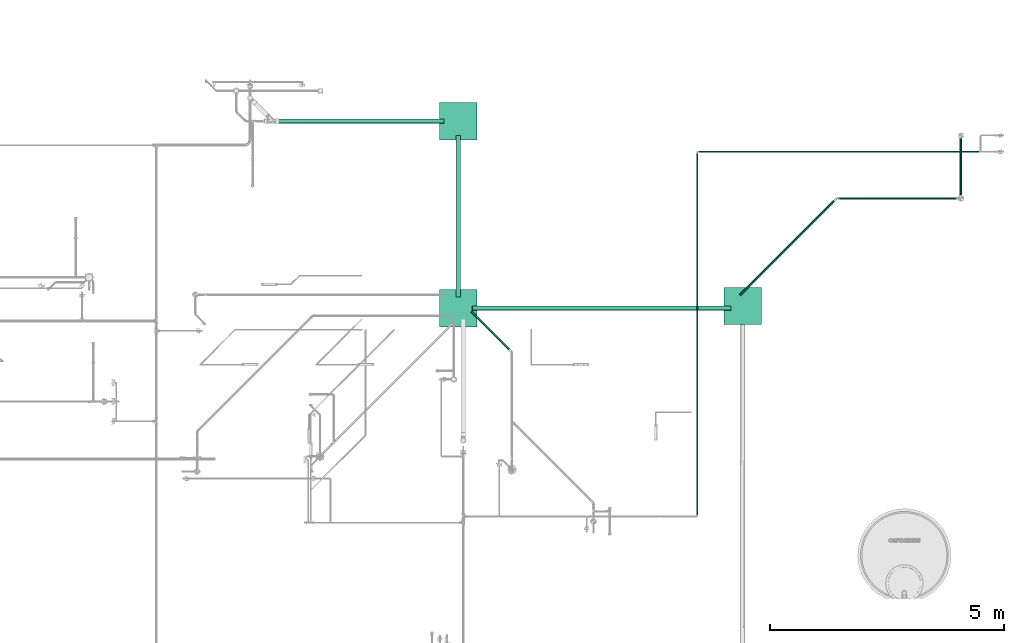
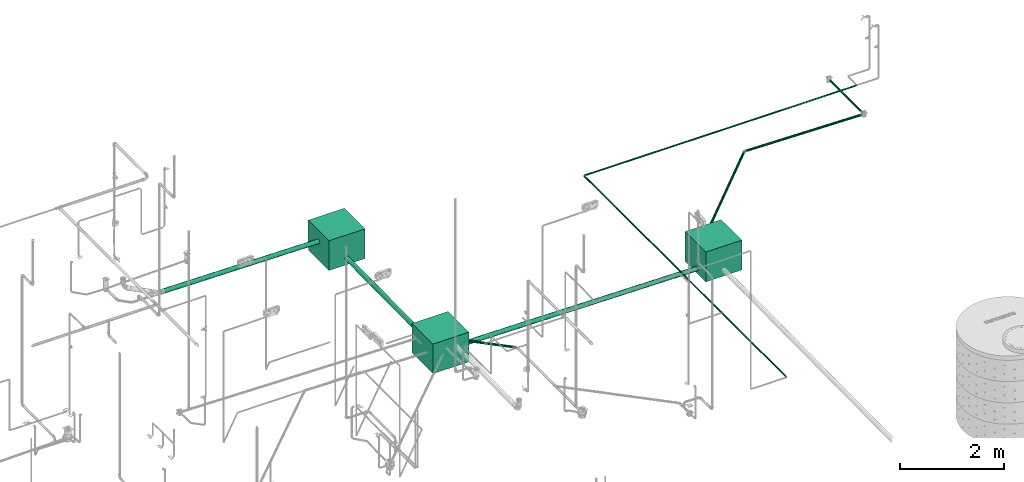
# One storey, part 24 of 589: 9 flow segments, 3 flow terminals.
"""IFC2X3 building model written with IfcOpenShell, lengths in millimetres."""

import ifcopenshell
import ifcopenshell.guid

model = None  # the IFC model being written
_history = None  # IfcOwnerHistory: only IFC2X3 demands one
_inside = {}  # id of a spatial element -> (the spatial element, [elements in it])
_under = {}  # id of a project, library or spatial element -> (it, [spatial elements below it])
_declared = {}  # id of a project -> (the project, [libraries it declares])
_typed = {}  # id of a type object -> (the type object, [elements of that type])
_made_of = {}  # id of a material, layer set ... -> (it, [elements and type objects made of it])


def new_model(schema):
    """Start an empty IFC model of exactly this schema.

    Asked for "IFC4X3", IfcOpenShell would pick the latest addendum, in which some entities
    have other attributes; the version numbers below select the first issue.
    IFC2X3 requires an IfcOwnerHistory on every rooted entity: one is made here for all.
    """
    global model, _history
    if schema == "IFC4X3":
        model = ifcopenshell.file(schema_version=(4, 3, 0, 0))
    else:
        model = ifcopenshell.file(schema=schema)
    _inside.clear()
    _under.clear()
    _declared.clear()
    _typed.clear()
    _made_of.clear()
    _history = None
    if model.schema == "IFC2X3":
        org = make("IfcOrganization", Name="unknown")
        user = make(
            "IfcPersonAndOrganization",
            ThePerson=make("IfcPerson", FamilyName="unknown"),
            TheOrganization=org,
        )
        app = make(
            "IfcApplication",
            ApplicationDeveloper=org,
            Version="unknown",
            ApplicationFullName="unknown",
            ApplicationIdentifier="unknown",
        )
        _history = make(
            "IfcOwnerHistory",
            OwningUser=user,
            OwningApplication=app,
            ChangeAction="ADDED",
            CreationDate=0,
        )
    return model


def make(cls, **values):
    """One entity of the class cls with the attributes given. An attribute that is None is left unset."""
    return model.create_entity(
        cls, **{name: value for name, value in values.items() if value is not None}
    )


def entity(cls, *values):
    """Any entity or typed value of the class cls, its attributes in the order of the schema. None: left unset."""
    e = model.create_entity(cls)
    for i, value in enumerate(values):
        if value is not None:
            e[i] = value
    return e


def rooted(cls, **values):
    """An entity with a GlobalId (a new one), such as an element, a storey or a relation."""
    return make(cls, GlobalId=ifcopenshell.guid.new(), OwnerHistory=_history, **values)


def si_unit(unit_type, name, prefix=None):
    """IfcSIUnit, for example si_unit("LENGTHUNIT", "METRE", prefix="MILLI")."""
    return make("IfcSIUnit", UnitType=unit_type, Prefix=prefix, Name=name)


def converted_unit(unit_type, name, factor, base, dimensions=None, offset=None):
    """IfcConversionBasedUnit, such as the inch: factor (a typed value) times the base unit."""
    return make(
        "IfcConversionBasedUnit"
        if offset is None
        else "IfcConversionBasedUnitWithOffset",
        ConversionOffset=offset,
        Dimensions=None
        if dimensions is None
        else entity("IfcDimensionalExponents", *dimensions),
        UnitType=unit_type,
        Name=name,
        ConversionFactor=make(
            "IfcMeasureWithUnit", ValueComponent=factor, UnitComponent=base
        ),
    )


def derived_unit(unit_type, elements):
    """IfcDerivedUnit: a product of units, each with its exponent."""
    return make(
        "IfcDerivedUnit",
        Elements=[
            make("IfcDerivedUnitElement", Unit=unit, Exponent=power)
            for unit, power in elements
        ],
        UnitType=unit_type,
    )


def assignment(units):
    """IfcUnitAssignment: the units of a project."""
    return None if units is None else make("IfcUnitAssignment", Units=units)


def point(xyz):
    """IfcCartesianPoint."""
    return None if xyz is None else make("IfcCartesianPoint", Coordinates=xyz)


def direction(xyz):
    """IfcDirection."""
    return None if xyz is None else make("IfcDirection", DirectionRatios=xyz)


def frame(location, z_axis=None, x_axis=None):
    """IfcAxis2Placement3D, a coordinate frame: its origin and axes. An axis left out is left unset."""
    return make(
        "IfcAxis2Placement3D",
        Location=point(location),
        Axis=direction(z_axis),
        RefDirection=direction(x_axis),
    )


def frame_2d(location, x_axis=None):
    """IfcAxis2Placement2D, a coordinate frame in the plane: its origin and x axis."""
    return make(
        "IfcAxis2Placement2D", Location=point(location), RefDirection=direction(x_axis)
    )


def origin():
    """The frame at (0, 0, 0) with its axes left unset."""
    return frame((0.0, 0.0, 0.0))


def origin_2d_with_axis():
    """The frame at (0, 0) in the plane with the x axis (1, 0) written out."""
    return frame_2d((0.0, 0.0), x_axis=(1.0, 0.0))


def place(relative_to, where):
    """IfcLocalPlacement: puts the frame where relative to a parent placement (None: the world)."""
    return make(
        "IfcLocalPlacement", PlacementRelTo=relative_to, RelativePlacement=where
    )


def context(
    kind, dimensions, precision=None, world=None, true_north=None, identifier=None
):
    """IfcGeometricRepresentationContext, for example the 3D "Model" context."""
    return make(
        "IfcGeometricRepresentationContext",
        ContextIdentifier=identifier,
        ContextType=kind,
        CoordinateSpaceDimension=dimensions,
        Precision=precision,
        WorldCoordinateSystem=world,
        TrueNorth=true_north,
    )


def subcontext(parent, identifier, kind, view, scale=None):
    """IfcGeometricRepresentationSubContext, for example "Body" below "Model"."""
    return make(
        "IfcGeometricRepresentationSubContext",
        ContextIdentifier=identifier,
        ContextType=kind,
        ParentContext=parent,
        TargetScale=scale,
        TargetView=view,
    )


def project(units=None, contexts=None):
    """IfcProject with its units and contexts."""
    return rooted(
        "IfcProject",
        Name="project",
        RepresentationContexts=contexts,
        UnitsInContext=assignment(units),
    )


def spatial(cls, under=None, at=None, **own):
    """A site, building, storey or space (cls), placed at a placement, below another one or the project."""
    s = rooted(cls, ObjectPlacement=at, **own)
    if under is not None:
        _under.setdefault(under.id(), (under, []))[1].append(s)
    return s


def polyline(points):
    """IfcPolyline through the points."""
    return make("IfcPolyline", Points=[point(p) for p in points])


def profile(cls, at=None, kind="AREA", **sizes):
    """A parametric profile (cls). Its sizes go by their IFC names, for example OverallWidth=200.0."""
    return make(cls, ProfileType=kind, Position=at, **sizes)


def rectangle(**sizes):
    """IfcRectangleProfileDef."""
    return profile("IfcRectangleProfileDef", **sizes)


def circle(**sizes):
    """IfcCircleProfileDef."""
    return profile("IfcCircleProfileDef", **sizes)


def outline(outer, holes=None, kind="AREA"):
    """IfcArbitraryClosedProfileDef: a profile drawn as a closed curve; with holes, ...WithVoids."""
    if holes is None:
        return make("IfcArbitraryClosedProfileDef", ProfileType=kind, OuterCurve=outer)
    return make(
        "IfcArbitraryProfileDefWithVoids",
        ProfileType=kind,
        OuterCurve=outer,
        InnerCurves=holes,
    )


def extrude(swept, where, along, depth):
    """IfcExtrudedAreaSolid: the profile swept, set in the frame where, extruded along a direction by depth."""
    return make(
        "IfcExtrudedAreaSolid",
        SweptArea=swept,
        Position=where,
        ExtrudedDirection=direction(along),
        Depth=depth,
    )


def shape(context_of_items, identifier, shape_type, items):
    """IfcShapeRepresentation: the items that make up one representation, for example the "Body"."""
    return make(
        "IfcShapeRepresentation",
        ContextOfItems=context_of_items,
        RepresentationIdentifier=identifier,
        RepresentationType=shape_type,
        Items=items,
    )


def source(mapping_origin, context_of_items, identifier, shape_type, items):
    """IfcRepresentationMap: a shape defined once, which mapped items show again and again."""
    return make(
        "IfcRepresentationMap",
        MappingOrigin=mapping_origin,
        MappedRepresentation=shape(context_of_items, identifier, shape_type, items),
    )


def transform(
    local_origin,
    x_axis=None,
    y_axis=None,
    z_axis=None,
    scale=None,
    scale2=None,
    scale3=None,
    uniform=True,
):
    """IfcCartesianTransformationOperator3D, or its non-uniform kind. x_axis, y_axis, z_axis: its Axis1, 2, 3."""
    if uniform:
        return make(
            "IfcCartesianTransformationOperator3D",
            Axis1=direction(x_axis),
            Axis2=direction(y_axis),
            LocalOrigin=point(local_origin),
            Scale=scale,
            Axis3=direction(z_axis),
        )
    return make(
        "IfcCartesianTransformationOperator3DnonUniform",
        Axis1=direction(x_axis),
        Axis2=direction(y_axis),
        LocalOrigin=point(local_origin),
        Scale=scale,
        Axis3=direction(z_axis),
        Scale2=scale2,
        Scale3=scale3,
    )


def mapped(mapping_source, mapping_target):
    """IfcMappedItem: shows the shape of a source again, moved by a transform."""
    return make(
        "IfcMappedItem", MappingSource=mapping_source, MappingTarget=mapping_target
    )


def material(Name=None, Category=None):
    """IfcMaterial."""
    return make("IfcMaterial", Name=Name, Category=Category)


def material_list(materials):
    """IfcMaterialList."""
    return make("IfcMaterialList", Materials=materials)


def made_of(thing, what):
    """Note that an element or type object is made of a material, layer set ...; save() writes the relation."""
    if what is not None:
        _made_of.setdefault(what.id(), (what, []))[1].append(thing)
    return thing


def type_object(cls, material=None, **own):
    """A type object (cls), such as IfcWallType, which elements share."""
    return made_of(rooted(cls, **own), material)


def type_shapes(of_type, sources):
    """Give a type object the sources (RepresentationMaps) that its elements show as mapped items."""
    of_type.RepresentationMaps = sources


def element(
    cls,
    number,
    at=None,
    inside=None,
    cuts=None,
    type_object=None,
    material=None,
    context=None,
    identifier="Body",
    shape_type=None,
    held_by="IfcProductDefinitionShape",
    body=None,
    shapes=None,
    **own,
):
    """One element of the class cls, such as IfcWall. Its Tag is "e" and its number.

    at: its placement. inside: the storey or other place that contains it. cuts: it is an
    opening in that element (IfcRelVoidsElement). A single representation is given by context,
    identifier, shape_type and body (its items); several are given by shapes. held_by: the class
    of the entity that holds the representations. save() writes the other relations.
    """
    e = rooted(cls, Tag="e%d" % number, ObjectPlacement=at, **own)
    if body is not None:
        shapes = [shape(context, identifier, shape_type, body)]
    if shapes is not None:
        e.Representation = make(held_by, Representations=shapes)
    if inside is not None:
        _inside.setdefault(inside.id(), (inside, []))[1].append(e)
    if cuts is not None:
        rooted(
            "IfcRelVoidsElement", RelatingBuildingElement=cuts, RelatedOpeningElement=e
        )
    if type_object is not None:
        _typed.setdefault(type_object.id(), (type_object, []))[1].append(e)
    return made_of(e, material)


def aggregate(whole, parts):
    """IfcRelAggregates: a whole, such as a stair, and the parts it consists of."""
    return rooted("IfcRelAggregates", RelatingObject=whole, RelatedObjects=parts)


def save(model, path):
    """Write the relations noted so far, then the file.

    IfcRelAggregates (storeys below a building ...), IfcRelContainedInSpatialStructure (elements
    in a storey), IfcRelDefinesByType, IfcRelAssociatesMaterial and IfcRelDeclares: one each for
    every whole, place, type object, material and project.
    """
    for whole, parts in _under.values():
        aggregate(whole, parts)
    for where, things in _inside.values():
        rooted(
            "IfcRelContainedInSpatialStructure",
            RelatedElements=things,
            RelatingStructure=where,
        )
    for kind, things in _typed.values():
        rooted("IfcRelDefinesByType", RelatedObjects=things, RelatingType=kind)
    for what, things in _made_of.values():
        rooted("IfcRelAssociatesMaterial", RelatedObjects=things, RelatingMaterial=what)
    for by, libraries in _declared.values():
        rooted("IfcRelDeclares", RelatingContext=by, RelatedDefinitions=libraries)
    model.write(path)


model = new_model("IFC2X3")

# Units and contexts
model_context = context("Model", 3, precision=0.01, world=origin(), true_north=direction((6.123031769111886e-17, 1.0)))
body_context = subcontext(model_context, "Body", "Model", "MODEL_VIEW")
ifc_project = project(units=[si_unit("LENGTHUNIT", "METRE", prefix="MILLI"), si_unit("AREAUNIT", "SQUARE_METRE"), si_unit("VOLUMEUNIT", "CUBIC_METRE"), converted_unit("PLANEANGLEUNIT", "DEGREE", entity("IfcRatioMeasure", 0.017453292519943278), si_unit("PLANEANGLEUNIT", "RADIAN"), dimensions=[0, 0, 0, 0, 0, 0, 0]), si_unit("MASSUNIT", "GRAM", prefix="KILO"), derived_unit("MASSDENSITYUNIT", [(si_unit("MASSUNIT", "GRAM", prefix="KILO"), 1), (si_unit("LENGTHUNIT", "METRE"), -3)]), derived_unit("IONCONCENTRATIONUNIT", [(si_unit("MASSUNIT", "GRAM", prefix="KILO"), 1), (si_unit("LENGTHUNIT", "METRE"), -3)]), derived_unit("MOMENTOFINERTIAUNIT", [(si_unit("LENGTHUNIT", "METRE"), 4)]), si_unit("TIMEUNIT", "SECOND"), si_unit("FREQUENCYUNIT", "HERTZ"), si_unit("THERMODYNAMICTEMPERATUREUNIT", "DEGREE_CELSIUS"), derived_unit("THERMALTRANSMITTANCEUNIT", [(si_unit("MASSUNIT", "GRAM", prefix="KILO"), 1), (si_unit("THERMODYNAMICTEMPERATUREUNIT", "KELVIN"), -1), (si_unit("TIMEUNIT", "SECOND"), -3)]), derived_unit("THERMALCONDUCTANCEUNIT", [(si_unit("MASSUNIT", "GRAM", prefix="KILO"), 1), (si_unit("THERMODYNAMICTEMPERATUREUNIT", "KELVIN"), -1), (si_unit("TIMEUNIT", "SECOND"), -3), (si_unit("LENGTHUNIT", "METRE"), 1)]), derived_unit("VOLUMETRICFLOWRATEUNIT", [(si_unit("LENGTHUNIT", "METRE"), 3), (si_unit("TIMEUNIT", "SECOND"), -1)]), derived_unit("MASSFLOWRATEUNIT", [(si_unit("MASSUNIT", "GRAM", prefix="KILO"), 1), (si_unit("TIMEUNIT", "SECOND"), -1)]), derived_unit("ROTATIONALFREQUENCYUNIT", [(si_unit("TIMEUNIT", "SECOND"), -1)]), si_unit("ELECTRICCURRENTUNIT", "AMPERE"), si_unit("ELECTRICVOLTAGEUNIT", "VOLT"), si_unit("POWERUNIT", "WATT"), si_unit("FORCEUNIT", "NEWTON", prefix="KILO"), si_unit("ILLUMINANCEUNIT", "LUX"), si_unit("LUMINOUSFLUXUNIT", "LUMEN"), si_unit("LUMINOUSINTENSITYUNIT", "CANDELA"), derived_unit("USERDEFINED", [(si_unit("MASSUNIT", "GRAM", prefix="KILO"), -1), (si_unit("LENGTHUNIT", "METRE"), -2), (si_unit("TIMEUNIT", "SECOND"), 3), (si_unit("LUMINOUSFLUXUNIT", "LUMEN"), 1)]), derived_unit("USERDEFINED", [(si_unit("MASSUNIT", "GRAM", prefix="KILO"), 1), (si_unit("TIMEUNIT", "SECOND"), -3), (si_unit("LENGTHUNIT", "METRE"), 3), (si_unit("ELECTRICCURRENTUNIT", "AMPERE"), -2)]), derived_unit("SOUNDPOWERUNIT", [(si_unit("MASSUNIT", "GRAM", prefix="KILO"), 1), (si_unit("TIMEUNIT", "SECOND"), -3), (si_unit("LENGTHUNIT", "METRE"), 2)]), derived_unit("SOUNDPRESSUREUNIT", [(si_unit("MASSUNIT", "GRAM", prefix="KILO"), 1), (si_unit("LENGTHUNIT", "METRE"), -1), (si_unit("TIMEUNIT", "SECOND"), -2)]), derived_unit("LINEARVELOCITYUNIT", [(si_unit("LENGTHUNIT", "METRE"), 1), (si_unit("TIMEUNIT", "SECOND"), -1)]), si_unit("PRESSUREUNIT", "PASCAL"), derived_unit("USERDEFINED", [(si_unit("MASSUNIT", "GRAM", prefix="KILO"), 1), (si_unit("LENGTHUNIT", "METRE"), -2), (si_unit("TIMEUNIT", "SECOND"), -2)]), derived_unit("LINEARFORCEUNIT", [(si_unit("MASSUNIT", "GRAM", prefix="KILO"), 1), (si_unit("TIMEUNIT", "SECOND"), -2)]), derived_unit("PLANARFORCEUNIT", [(si_unit("MASSUNIT", "GRAM", prefix="KILO"), 1), (si_unit("LENGTHUNIT", "METRE"), -1), (si_unit("TIMEUNIT", "SECOND"), -2)]), derived_unit("SPECIFICHEATCAPACITYUNIT", [(si_unit("THERMODYNAMICTEMPERATUREUNIT", "KELVIN"), -1), (si_unit("LENGTHUNIT", "METRE"), 2), (si_unit("TIMEUNIT", "SECOND"), -2)]), derived_unit("HEATINGVALUEUNIT", [(si_unit("LENGTHUNIT", "METRE"), 2), (si_unit("TIMEUNIT", "SECOND"), -2)]), derived_unit("VAPORPERMEABILITYUNIT", [(si_unit("LENGTHUNIT", "METRE"), -1), (si_unit("TIMEUNIT", "SECOND"), 1)]), derived_unit("DYNAMICVISCOSITYUNIT", [(si_unit("MASSUNIT", "GRAM", prefix="KILO"), 1), (si_unit("TIMEUNIT", "SECOND"), -1), (si_unit("LENGTHUNIT", "METRE"), -1)]), derived_unit("THERMALEXPANSIONCOEFFICIENTUNIT", [(si_unit("THERMODYNAMICTEMPERATUREUNIT", "KELVIN"), -1)]), derived_unit("MODULUSOFELASTICITYUNIT", [(si_unit("MASSUNIT", "GRAM", prefix="KILO"), 1), (si_unit("LENGTHUNIT", "METRE"), -1), (si_unit("TIMEUNIT", "SECOND"), -2)]), derived_unit("ISOTHERMALMOISTURECAPACITYUNIT", [(si_unit("LENGTHUNIT", "METRE"), 3), (si_unit("MASSUNIT", "GRAM", prefix="KILO"), -1)]), derived_unit("MOISTUREDIFFUSIVITYUNIT", [(si_unit("TIMEUNIT", "SECOND"), -1), (si_unit("LENGTHUNIT", "METRE"), 2)])], contexts=[model_context])

# Site, building, storey
site_placement = place(None, origin())
site = spatial("IfcSite", under=ifc_project, at=site_placement, Name="Default", CompositionType="ELEMENT")
building_placement = place(site_placement, origin())
building = spatial("IfcBuilding", under=site, at=building_placement, CompositionType="ELEMENT")
storey_placement = place(building_placement, frame((0.0, 0.0, 100.0)))
storey = spatial("IfcBuildingStorey", under=building, at=storey_placement, Name="TÉRREO", CompositionType="ELEMENT", Elevation=100.0)

# Flow segments
pipe_segment_type_1 = type_object("IfcPipeSegmentType", Name="Tipos de tubos:PVC Esgoto Série Normal", PredefinedType="NOTDEFINED")
flow_segment_1_placement = place(storey_placement, origin())
element("IfcFlowSegment", 1, at=flow_segment_1_placement, inside=storey, type_object=pipe_segment_type_1, Name="Tipos de tubos:PVC Esgoto Série Normal", ObjectType="Tipos de tubos:PVC Esgoto Série Normal", context=body_context, shape_type="SweptSolid", body=[
    extrude(circle(Radius=25.0, at=frame_2d((1.5312502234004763e-12, -6.445791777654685e-14), x_axis=(1.0, 0.0))), frame((10784.507089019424, 2625.360724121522, -317.16772473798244), z_axis=(0.7070370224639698, -0.7068937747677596, 0.019996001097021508), x_axis=(0.7070351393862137, 0.7071784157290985, 0.0)), (0.0, 0.0, 1.0), 1217.3006284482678),
])
flow_segment_2_placement = place(storey_placement, origin())
element("IfcFlowSegment", 2, at=flow_segment_2_placement, inside=storey, type_object=pipe_segment_type_1, Name="Tipos de tubos:PVC Esgoto Série Normal", ObjectType="Tipos de tubos:PVC Esgoto Série Normal", context=body_context, shape_type="SweptSolid", body=[
    extrude(circle(Radius=25.0, at=frame_2d((0.0, -1.0572760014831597e-14), x_axis=(1.0, 0.0))), frame((18623.560060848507, 5044.222132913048, -118.02614831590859), z_axis=(0.9998000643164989, 0.0, -0.019995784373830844), x_axis=(0.0, 1.0, 0.0)), (0.0, 0.0, 1.0), 2581.703767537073),
])
flow_segment_3_placement = place(storey_placement, origin())
element("IfcFlowSegment", 3, at=flow_segment_3_placement, inside=storey, type_object=pipe_segment_type_1, Name="Tipos de tubos:PVC Esgoto Série Normal", ObjectType="Tipos de tubos:PVC Esgoto Série Normal", context=body_context, shape_type="SweptSolid", body=[
    extrude(circle(Radius=20.0, at=frame_2d((0.0, -1.6919798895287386e-14), x_axis=(1.0, 0.0))), frame((21263.74765367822, 5097.122132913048, -169.64934016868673), z_axis=(0.0, 1.0, 0.0), x_axis=(-1.0, 0.0, 0.0)), (0.0, 0.0, 1.0), 1242.857730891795),
])
flow_segment_4_placement = place(storey_placement, origin())
element("IfcFlowSegment", 4, at=flow_segment_4_placement, inside=storey, type_object=pipe_segment_type_1, Name="Tipos de tubos:PVC Esgoto Série Normal", ObjectType="Tipos de tubos:PVC Esgoto Série Normal", context=body_context, shape_type="SweptSolid", body=[
    extrude(circle(Radius=50.0, at=frame_2d((0.0, -5.0756858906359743e-14), x_axis=(1.0, 0.0))), frame((6630.023855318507, 6698.647206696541, -221.57385244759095), z_axis=(0.9999500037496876, 0.0, -0.009999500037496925), x_axis=(0.0, -1.0, 0.0)), (0.0, 0.0, 1.0), 3578.662834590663),
])
flow_segment_5_placement = place(storey_placement, origin())
element("IfcFlowSegment", 5, at=flow_segment_5_placement, inside=storey, type_object=pipe_segment_type_1, Name="Tipos de tubos:PVC Esgoto Série Normal", ObjectType="Tipos de tubos:PVC Esgoto Série Normal", context=body_context, shape_type="SweptSolid", body=[
    extrude(circle(Radius=50.0, at=frame_2d((0.0, -7.309777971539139e-14), x_axis=(1.0, 0.0))), frame((10508.531662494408, 2939.2721329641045, -584.5999999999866), z_axis=(0.0, 0.9999498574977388, 0.010014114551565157), x_axis=(-1.0, 0.0, 0.0)), (0.0, 0.0, 1.0), 3455.123248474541),
])
flow_segment_6_placement = place(storey_placement, origin())
element("IfcFlowSegment", 6, at=flow_segment_6_placement, inside=storey, type_object=pipe_segment_type_1, Name="Tipos de tubos:PVC Esgoto Série Normal", ObjectType="Tipos de tubos:PVC Esgoto Série Normal", context=body_context, shape_type="SweptSolid", body=[
    extrude(circle(Radius=50.0, at=frame_2d((0.0, -6.767581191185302e-14), x_axis=(1.0, 0.0))), frame((10808.53166249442, 2697.318129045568, -550.0), z_axis=(0.9999500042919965, 3.293252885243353e-07, -0.009999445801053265), x_axis=(3.2934175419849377e-07, -1.0, 0.0)), (0.0, 0.0, 1.0), 5540.0),
])
flow_segment_7_placement = place(storey_placement, origin())
element("IfcFlowSegment", 7, at=flow_segment_7_placement, inside=storey, type_object=pipe_segment_type_1, Name="Tipos de tubos:PVC Esgoto Série Normal", ObjectType="Tipos de tubos:PVC Esgoto Série Normal", context=body_context, shape_type="SweptSolid", body=[
    extrude(circle(Radius=25.0, at=frame_2d((-2.2013379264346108e-32, -2.5378429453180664e-14), x_axis=(1.0, 0.0))), frame((16536.371350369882, 2973.1108822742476, -146.99732336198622), z_axis=(0.7070891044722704, 0.7070537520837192, 0.009999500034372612), x_axis=(-0.7070891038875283, 0.7071244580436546, 0.0)), (0.0, 0.0, 1.0), 2913.2352306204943),
])
pipe_segment_type_2 = type_object("IfcPipeSegmentType", Name="Tipos de tubos:PVC Marrom Soldável", PredefinedType="NOTDEFINED")
flow_segment_8_placement = place(storey_placement, origin())
element("IfcFlowSegment", 8, at=flow_segment_8_placement, inside=storey, type_object=pipe_segment_type_2, Name="Tipos de tubos:PVC Marrom Soldável", ObjectType="Tipos de tubos:PVC Marrom Soldável", context=body_context, shape_type="SweptSolid", body=[
    extrude(circle(Radius=12.5, at=origin_2d_with_axis()), frame((15622.720932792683, -1745.3814166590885, -250.0), z_axis=(0.0, 1.0, 0.0), x_axis=(1.0, 0.0, 0.0)), (0.0, 0.0, 1.0), 7774.203549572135),
])
flow_segment_9_placement = place(storey_placement, origin())
element("IfcFlowSegment", 9, at=flow_segment_9_placement, inside=storey, type_object=pipe_segment_type_2, Name="Tipos de tubos:PVC Marrom Soldável", ObjectType="Tipos de tubos:PVC Marrom Soldável", context=body_context, shape_type="SweptSolid", body=[
    extrude(circle(Radius=12.5, at=origin_2d_with_axis()), frame((15638.120932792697, 6044.222132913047, -250.0), z_axis=(1.0, 0.0, 0.0), x_axis=(0.0, -1.0, 0.0)), (0.0, 0.0, 1.0), 6031.419056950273),
])

# Flow terminals
ifc_material_1 = material(Name="<Unnamed>")
ifc_material_2 = material(Name="Tijolo, Comum")
ifc_material_3 = material(Name=".CONCRETO")
ifc_material_list = material_list([ifc_material_1, ifc_material_2, ifc_material_3])
distribution_element_type = type_object("IfcDistributionElementType", Name="Caixa em Alvenaria_Rodrigo MEP:Caixa de Inspeçao de Esgoto 60x60cm - CI", material=ifc_material_list)
shared_shape = source(origin(), body_context, "Body", "SweptSolid", [
    extrude(circle(Radius=50.0, at=frame_2d((1.6919798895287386e-14, -2.0303758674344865e-13), x_axis=(1.0, 0.0))), frame((297.0, -150.0, -550.0), z_axis=(1.0, 0.0, 0.0), x_axis=(0.0, -1.0, 0.0)), (0.0, 0.0, 1.0), 2.9999999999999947),
    extrude(circle(Radius=50.0, at=frame_2d((0.0, -2.0303758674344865e-13), x_axis=(1.0, 0.0))), frame((297.0, 150.0, -550.0), z_axis=(1.0, 0.0, 0.0), x_axis=(0.0, -1.0, 0.0)), (0.0, 0.0, 1.0), 2.9999999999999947),
    extrude(circle(Radius=50.0, at=frame_2d((0.0, -6.767919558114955e-14), x_axis=(1.0, 0.0))), frame((-300.0, 136.27378055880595, -550.0), z_axis=(1.0, 0.0, 0.0), x_axis=(0.0, 1.0, 0.0)), (0.0, 0.0, 1.0), 2.9999999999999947),
    extrude(circle(Radius=50.0, at=frame_2d((-1.6919798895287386e-14, -6.767919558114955e-14), x_axis=(1.0, 0.0))), frame((-300.0, -150.0, -550.0), z_axis=(1.0, 0.0, 0.0), x_axis=(0.0, 1.0, 0.0)), (0.0, 0.0, 1.0), 2.9999999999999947),
    extrude(circle(Radius=50.0, at=frame_2d((-1.6919798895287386e-14, -2.707167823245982e-13), x_axis=(1.0, 0.0))), frame((150.0, 297.0, -550.0), z_axis=(0.0, 1.0, 0.0), x_axis=(1.0, 0.0, 0.0)), (0.0, 0.0, 1.0), 2.9999999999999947),
    extrude(circle(Radius=50.0, at=frame_2d((0.0, -2.707167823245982e-13), x_axis=(1.0, 0.0))), frame((-150.0, 297.0, -550.0), z_axis=(0.0, 1.0, 0.0), x_axis=(1.0, 0.0, 0.0)), (0.0, 0.0, 1.0), 2.9999999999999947),
    extrude(circle(Radius=50.0, at=frame_2d((-1.307310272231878e-17, -2.707167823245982e-13), x_axis=(1.0, 0.0))), frame((297.0, 0.0, -550.0), z_axis=(1.0, 0.0, 0.0), x_axis=(0.0, -1.0, 0.0)), (0.0, 0.0, 1.0), 2.9999999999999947),
    extrude(circle(Radius=50.0, at=frame_2d((1.9003610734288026e-15, -6.767919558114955e-14), x_axis=(1.0, 0.0))), frame((-300.0, 0.0, -550.0), z_axis=(1.0, 0.0, 0.0), x_axis=(0.0, 1.0, 0.0)), (0.0, 0.0, 1.0), 2.9999999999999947),
    extrude(circle(Radius=50.0, at=frame_2d((-1.9105340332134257e-15, -2.707167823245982e-13), x_axis=(1.0, 0.0))), frame((0.0, 297.0, -550.0), z_axis=(0.0, 1.0, 0.0), x_axis=(1.0, 0.0, 0.0)), (0.0, 0.0, 1.0), 2.9999999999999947),
    extrude(outline(polyline([(-400.0, -400.0), (400.0, -400.0), (400.0, 400.0), (-400.0, 400.0), (-400.0, -400.0)]), holes=[polyline([(-300.0, 300.0), (300.0, 300.0), (300.0, -300.0), (-300.0, -300.0), (-300.0, 300.0)])]), frame((0.0, 0.0, -600.0)), (0.0, 0.0, 1.0), 599.9999999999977),
    extrude(rectangle(XDim=798.0000000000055, YDim=798.0, at=origin_2d_with_axis()), frame((0.0, 0.0, -700.0), z_axis=(0.0, 0.0, 1.0), x_axis=(-1.0, 0.0, 0.0)), (0.0, 0.0, 1.0), 99.99999999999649),
    extrude(circle(Radius=50.0, at=frame_2d((0.0, -2.707167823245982e-13), x_axis=(1.0, 0.0))), frame((0.0, -300.0, -550.0), z_axis=(0.0, 1.0, 0.0), x_axis=(1.0, 0.0, 0.0)), (0.0, 0.0, 1.0), 0.9999999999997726),
    extrude(rectangle(XDim=599.9999999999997, YDim=599.9999999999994, at=origin_2d_with_axis()), frame((0.0, 0.0, -50.51158969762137), z_axis=(0.0, 0.0, 1.0), x_axis=(0.0, 1.0, 0.0)), (0.0, 0.0, 1.0), 50.51158969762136),
])
type_shapes(distribution_element_type, [shared_shape])
flow_terminal_placement = place(storey_placement, frame((10508.531662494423, 2697.318129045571, 0.0), z_axis=(0.0, 0.0, 1.0), x_axis=(0.0, 1.0, 0.0)))
element("IfcFlowTerminal", 10, at=flow_terminal_placement, inside=storey, type_object=distribution_element_type, material=ifc_material_list, Name="Caixa em Alvenaria_Rodrigo MEP:Caixa de Inspeçao de Esgoto 60x60cm - CI", ObjectType="Caixa em Alvenaria_Rodrigo MEP:Caixa de Inspeçao de Esgoto 60x60cm - CI", context=body_context, shape_type="MappedRepresentation", body=[
    mapped(shared_shape, transform((0.0, 0.0, 0.0), scale=1.0)),
])
for number, where in (
    (11, (10508.531662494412, 6694.222132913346, 0.0)),
    (12, (16592.830950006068, 2741.2798795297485, 0.0)),
):
    element("IfcFlowTerminal", number, at=place(storey_placement, frame(where)), inside=storey, type_object=distribution_element_type, material=ifc_material_list, Name="Caixa em Alvenaria_Rodrigo MEP:Caixa de Inspeçao de Esgoto 60x60cm - CI", ObjectType="Caixa em Alvenaria_Rodrigo MEP:Caixa de Inspeçao de Esgoto 60x60cm - CI", context=body_context, shape_type="MappedRepresentation", body=[
        mapped(shared_shape, transform((0.0, 0.0, 0.0), scale=1.0)),
    ])

save(model, "model.ifc")
